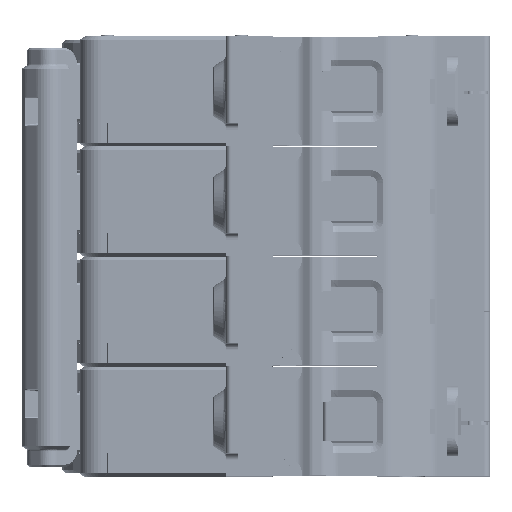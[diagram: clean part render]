
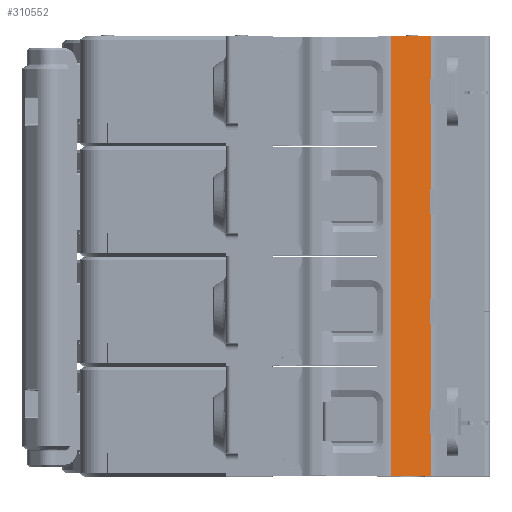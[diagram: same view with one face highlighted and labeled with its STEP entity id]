
A CAD part, top view. The second image highlights one B-rep face of the part: STEP entity #310552.
In plain terms, the highlighted planar face has unit normal (0.259, 0, 0.966).
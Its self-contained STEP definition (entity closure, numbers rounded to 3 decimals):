
#4645=DIRECTION('',(0.966,0.,-0.259));
#4646=VECTOR('',#4645,6.674);
#4647=CARTESIAN_POINT('',(35.509,0.,45.964));
#4648=LINE('',#4647,#4646);
#101214=DIRECTION('',(-0.966,0.,0.259));
#101215=VECTOR('',#101214,6.674);
#101216=CARTESIAN_POINT('',(41.955,70.8,44.236));
#101217=LINE('',#101216,#101215);
#102520=CARTESIAN_POINT('',(41.955,63.945,
44.236));
#102522=DIRECTION('',(0.,1.,0.));
#102523=VECTOR('',#102522,6.855);
#102524=CARTESIAN_POINT('',(41.955,63.945,
44.236));
#102525=LINE('',#102524,#102523);
#102530=DIRECTION('',(0.,1.,0.));
#102531=VECTOR('',#102530,6.855);
#102532=CARTESIAN_POINT('',(41.955,0.,44.236));
#102533=LINE('',#102532,#102531);
#102534=CARTESIAN_POINT('',(41.955,6.855,
44.236));
#102576=CARTESIAN_POINT('',(41.955,10.845,
44.236));
#102578=CARTESIAN_POINT('',(41.955,24.555,
44.236));
#102620=CARTESIAN_POINT('',(41.955,28.545,
44.236));
#102622=CARTESIAN_POINT('',(41.955,42.255,
44.236));
#102664=CARTESIAN_POINT('',(41.955,46.245,
44.236));
#102666=CARTESIAN_POINT('',(41.955,59.955,
44.236));
#102736=CARTESIAN_POINT('',(41.955,63.945,
44.236));
#102737=CARTESIAN_POINT('',(41.904,63.933,
44.25));
#102738=CARTESIAN_POINT('',(41.836,63.882,
44.268));
#102739=CARTESIAN_POINT('',(41.8,63.804,44.278));
#102740=CARTESIAN_POINT('',(41.8,63.75,44.278));
#102742=DIRECTION('',(0.,-1.,0.));
#102743=VECTOR('',#102742,3.6);
#102744=CARTESIAN_POINT('',(41.8,63.75,44.278));
#102745=LINE('',#102744,#102743);
#102746=CARTESIAN_POINT('',(41.8,60.15,44.278));
#102747=CARTESIAN_POINT('',(41.8,60.096,44.278));
#102748=CARTESIAN_POINT('',(41.836,60.018,
44.268));
#102749=CARTESIAN_POINT('',(41.904,59.967,
44.25));
#102750=CARTESIAN_POINT('',(41.955,59.955,
44.236));
#102752=DIRECTION('',(0.,-1.,0.));
#102753=VECTOR('',#102752,13.71);
#102754=CARTESIAN_POINT('',(41.955,59.955,
44.236));
#102755=LINE('',#102754,#102753);
#102756=CARTESIAN_POINT('',(41.955,46.245,
44.236));
#102757=CARTESIAN_POINT('',(41.904,46.233,
44.25));
#102758=CARTESIAN_POINT('',(41.836,46.182,
44.268));
#102759=CARTESIAN_POINT('',(41.8,46.104,44.278));
#102760=CARTESIAN_POINT('',(41.8,46.05,44.278));
#102762=DIRECTION('',(0.,-1.,0.));
#102763=VECTOR('',#102762,3.6);
#102764=CARTESIAN_POINT('',(41.8,46.05,44.278));
#102765=LINE('',#102764,#102763);
#102766=CARTESIAN_POINT('',(41.8,42.45,44.278));
#102767=CARTESIAN_POINT('',(41.8,42.396,44.278));
#102768=CARTESIAN_POINT('',(41.836,42.318,
44.268));
#102769=CARTESIAN_POINT('',(41.904,42.267,
44.25));
#102770=CARTESIAN_POINT('',(41.955,42.255,
44.236));
#102772=DIRECTION('',(0.,-1.,0.));
#102773=VECTOR('',#102772,13.71);
#102774=CARTESIAN_POINT('',(41.955,42.255,
44.236));
#102775=LINE('',#102774,#102773);
#102776=CARTESIAN_POINT('',(41.955,28.545,
44.236));
#102777=CARTESIAN_POINT('',(41.904,28.533,
44.25));
#102778=CARTESIAN_POINT('',(41.836,28.482,
44.268));
#102779=CARTESIAN_POINT('',(41.8,28.404,44.278));
#102780=CARTESIAN_POINT('',(41.8,28.35,44.278));
#102782=DIRECTION('',(0.,-1.,0.));
#102783=VECTOR('',#102782,3.6);
#102784=CARTESIAN_POINT('',(41.8,28.35,44.278));
#102785=LINE('',#102784,#102783);
#102786=CARTESIAN_POINT('',(41.8,24.75,44.278));
#102787=CARTESIAN_POINT('',(41.8,24.696,44.278));
#102788=CARTESIAN_POINT('',(41.836,24.618,
44.268));
#102789=CARTESIAN_POINT('',(41.904,24.567,
44.25));
#102790=CARTESIAN_POINT('',(41.955,24.555,
44.236));
#102792=DIRECTION('',(0.,-1.,0.));
#102793=VECTOR('',#102792,13.71);
#102794=CARTESIAN_POINT('',(41.955,24.555,
44.236));
#102795=LINE('',#102794,#102793);
#102796=CARTESIAN_POINT('',(41.955,10.845,
44.236));
#102797=CARTESIAN_POINT('',(41.904,10.833,
44.25));
#102798=CARTESIAN_POINT('',(41.836,10.782,
44.268));
#102799=CARTESIAN_POINT('',(41.8,10.704,44.278));
#102800=CARTESIAN_POINT('',(41.8,10.65,44.278));
#102802=DIRECTION('',(0.,-1.,0.));
#102803=VECTOR('',#102802,3.6);
#102804=CARTESIAN_POINT('',(41.8,10.65,44.278));
#102805=LINE('',#102804,#102803);
#102806=CARTESIAN_POINT('',(41.8,7.05,44.278));
#102807=CARTESIAN_POINT('',(41.8,6.996,44.278));
#102808=CARTESIAN_POINT('',(41.836,6.918,
44.268));
#102809=CARTESIAN_POINT('',(41.904,6.867,
44.25));
#102810=CARTESIAN_POINT('',(41.955,6.855,
44.236));
#102816=DIRECTION('',(0.,-1.,0.));
#102817=VECTOR('',#102816,70.8);
#102818=CARTESIAN_POINT('',(35.509,70.8,45.964));
#102819=LINE('',#102818,#102817);
#133041=CARTESIAN_POINT('',(35.509,0.,45.964));
#133042=VERTEX_POINT('',#133041);
#133043=CARTESIAN_POINT('',(41.955,0.,44.236));
#133044=VERTEX_POINT('',#133043);
#134004=CARTESIAN_POINT('',(41.8,7.05,44.278));
#134005=VERTEX_POINT('',#134004);
#134008=VERTEX_POINT('',#102534);
#141264=VERTEX_POINT('',#102576);
#141271=CARTESIAN_POINT('',(41.8,10.65,44.278));
#141272=VERTEX_POINT('',#141271);
#142927=CARTESIAN_POINT('',(41.8,24.75,44.278));
#142928=VERTEX_POINT('',#142927);
#142931=VERTEX_POINT('',#102578);
#149451=VERTEX_POINT('',#102620);
#149458=CARTESIAN_POINT('',(41.8,28.35,44.278));
#149459=VERTEX_POINT('',#149458);
#151286=CARTESIAN_POINT('',(41.8,42.45,44.278));
#151287=VERTEX_POINT('',#151286);
#151290=VERTEX_POINT('',#102622);
#157776=VERTEX_POINT('',#102664);
#157783=CARTESIAN_POINT('',(41.8,46.05,44.278));
#157784=VERTEX_POINT('',#157783);
#159599=CARTESIAN_POINT('',(41.8,60.15,44.278));
#159600=VERTEX_POINT('',#159599);
#159603=VERTEX_POINT('',#102666);
#164480=CARTESIAN_POINT('',(41.955,70.8,44.236));
#164481=VERTEX_POINT('',#164480);
#164482=CARTESIAN_POINT('',(35.509,70.8,45.964));
#164483=VERTEX_POINT('',#164482);
#166986=VERTEX_POINT('',#102520);
#166993=CARTESIAN_POINT('',(41.8,63.75,44.278));
#166994=VERTEX_POINT('',#166993);
#310513=CARTESIAN_POINT('',(35.,0.,46.1));
#310514=DIRECTION('',(0.259,0.,0.966));
#310515=DIRECTION('',(0.966,0.,-0.259));
#310516=AXIS2_PLACEMENT_3D('',#310513,#310514,#310515);
#310517=PLANE('',#310516);
#310519=ORIENTED_EDGE('',*,*,#310518,.F.);
#310520=ORIENTED_EDGE('',*,*,#308642,.F.);
#310521=ORIENTED_EDGE('',*,*,#310356,.F.);
#310523=ORIENTED_EDGE('',*,*,#310522,.T.);
#310524=ORIENTED_EDGE('',*,*,#310497,.T.);
#310526=ORIENTED_EDGE('',*,*,#310525,.T.);
#310527=ORIENTED_EDGE('',*,*,#310409,.T.);
#310529=ORIENTED_EDGE('',*,*,#310528,.T.);
#310531=ORIENTED_EDGE('',*,*,#310530,.T.);
#310533=ORIENTED_EDGE('',*,*,#310532,.T.);
#310534=ORIENTED_EDGE('',*,*,#310393,.T.);
#310536=ORIENTED_EDGE('',*,*,#310535,.T.);
#310538=ORIENTED_EDGE('',*,*,#310537,.T.);
#310540=ORIENTED_EDGE('',*,*,#310539,.T.);
#310541=ORIENTED_EDGE('',*,*,#310377,.T.);
#310543=ORIENTED_EDGE('',*,*,#310542,.T.);
#310545=ORIENTED_EDGE('',*,*,#310544,.T.);
#310547=ORIENTED_EDGE('',*,*,#310546,.T.);
#310548=ORIENTED_EDGE('',*,*,#310361,.F.);
#310549=ORIENTED_EDGE('',*,*,#175014,.F.);
#310550=EDGE_LOOP('',(#310519,#310520,#310521,#310523,#310524,#310526,#310527,
#310529,#310531,#310533,#310534,#310536,#310538,#310540,#310541,#310543,#310545,
#310547,#310548,#310549));
#310551=FACE_OUTER_BOUND('',#310550,.F.);
#310552=ADVANCED_FACE('',(#310551),#310517,.T.);
#102741=B_SPLINE_CURVE_WITH_KNOTS('',3,(#102736,#102737,#102738,#102739,
#102740),.UNSPECIFIED.,.F.,.F.,(4,1,4),(0.,0.5,1.),.UNSPECIFIED.);
#102751=B_SPLINE_CURVE_WITH_KNOTS('',3,(#102746,#102747,#102748,#102749,
#102750),.UNSPECIFIED.,.F.,.F.,(4,1,4),(0.,0.5,1.),.UNSPECIFIED.);
#102761=B_SPLINE_CURVE_WITH_KNOTS('',3,(#102756,#102757,#102758,#102759,
#102760),.UNSPECIFIED.,.F.,.F.,(4,1,4),(0.,0.5,1.),.UNSPECIFIED.);
#102771=B_SPLINE_CURVE_WITH_KNOTS('',3,(#102766,#102767,#102768,#102769,
#102770),.UNSPECIFIED.,.F.,.F.,(4,1,4),(0.,0.5,1.),.UNSPECIFIED.);
#102781=B_SPLINE_CURVE_WITH_KNOTS('',3,(#102776,#102777,#102778,#102779,
#102780),.UNSPECIFIED.,.F.,.F.,(4,1,4),(0.,0.5,1.),.UNSPECIFIED.);
#102791=B_SPLINE_CURVE_WITH_KNOTS('',3,(#102786,#102787,#102788,#102789,
#102790),.UNSPECIFIED.,.F.,.F.,(4,1,4),(0.,0.5,1.),.UNSPECIFIED.);
#102801=B_SPLINE_CURVE_WITH_KNOTS('',3,(#102796,#102797,#102798,#102799,
#102800),.UNSPECIFIED.,.F.,.F.,(4,1,4),(0.,0.5,1.),.UNSPECIFIED.);
#102811=B_SPLINE_CURVE_WITH_KNOTS('',3,(#102806,#102807,#102808,#102809,
#102810),.UNSPECIFIED.,.F.,.F.,(4,1,4),(0.,0.5,1.),.UNSPECIFIED.);
#175014=EDGE_CURVE('',#133042,#133044,#4648,.T.);
#308642=EDGE_CURVE('',#164481,#164483,#101217,.T.);
#310356=EDGE_CURVE('',#166986,#164481,#102525,.T.);
#310361=EDGE_CURVE('',#133044,#134008,#102533,.T.);
#310377=EDGE_CURVE('',#142931,#141264,#102795,.T.);
#310393=EDGE_CURVE('',#151290,#149451,#102775,.T.);
#310409=EDGE_CURVE('',#159603,#157776,#102755,.T.);
#310497=EDGE_CURVE('',#166994,#159600,#102745,.T.);
#310518=EDGE_CURVE('',#164483,#133042,#102819,.T.);
#310522=EDGE_CURVE('',#166986,#166994,#102741,.T.);
#310525=EDGE_CURVE('',#159600,#159603,#102751,.T.);
#310528=EDGE_CURVE('',#157776,#157784,#102761,.T.);
#310530=EDGE_CURVE('',#157784,#151287,#102765,.T.);
#310532=EDGE_CURVE('',#151287,#151290,#102771,.T.);
#310535=EDGE_CURVE('',#149451,#149459,#102781,.T.);
#310537=EDGE_CURVE('',#149459,#142928,#102785,.T.);
#310539=EDGE_CURVE('',#142928,#142931,#102791,.T.);
#310542=EDGE_CURVE('',#141264,#141272,#102801,.T.);
#310544=EDGE_CURVE('',#141272,#134005,#102805,.T.);
#310546=EDGE_CURVE('',#134005,#134008,#102811,.T.);
